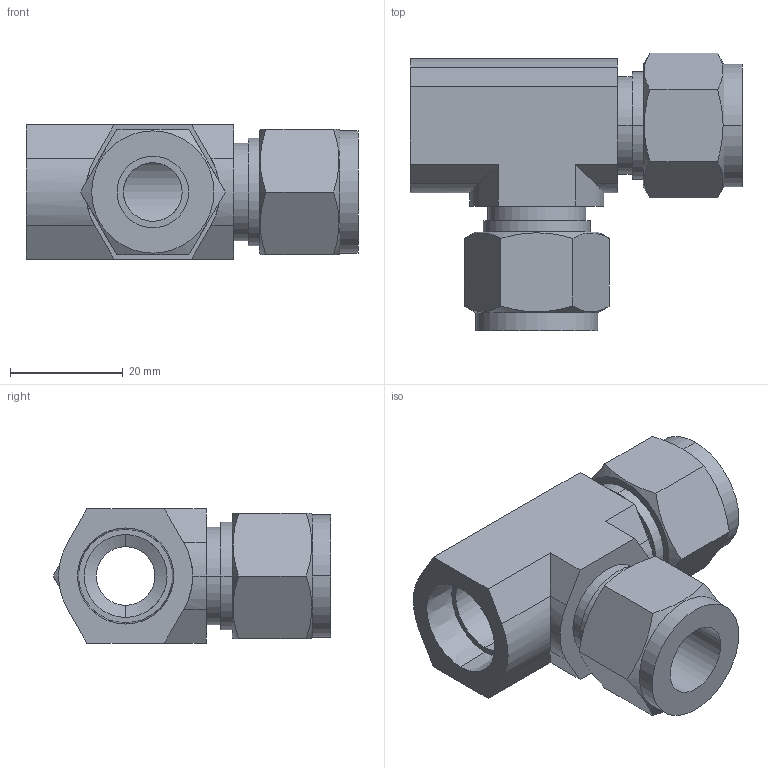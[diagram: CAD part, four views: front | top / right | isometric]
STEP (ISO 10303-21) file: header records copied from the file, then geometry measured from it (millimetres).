
FILE_DESCRIPTION (( 'STEP AP203' ), '1' );
FILE_NAME ('DTF 08-06 SS.STEP', '2009-09-08T09:44:45', ( ' ' ), ( '' ), 'SwSTEP 2.0', 'SolidWorks 2008', '' );
FILE_SCHEMA (( 'CONFIG_CONTROL_DESIGN' ));
Length unit declared in the file: millimetre
Products named in the file (1): DTF 08-06 SS
Bounding box: 58.9 x 49.23 x 23.8 mm (x, y, z)
Volume: 24117.4 mm3; surface area: 11378.6 mm2
Topology: 1 solids, 1 shells, 76 faces, 185 edges, 120 vertices
Faces by surface type: plane 36, cylinder 28, cone 12
Entity records: 2601 total; most frequent: CARTESIAN_POINT 747, ORIENTED_EDGE 370, DIRECTION 361, EDGE_CURVE 185, AXIS2_PLACEMENT_3D 136, VERTEX_POINT 120, EDGE_LOOP 89, VECTOR 89
